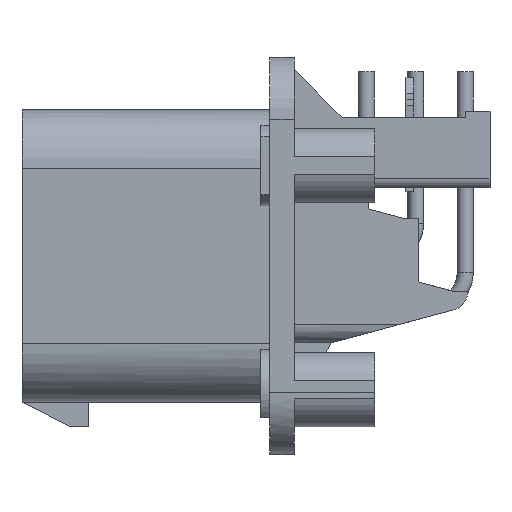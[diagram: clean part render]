
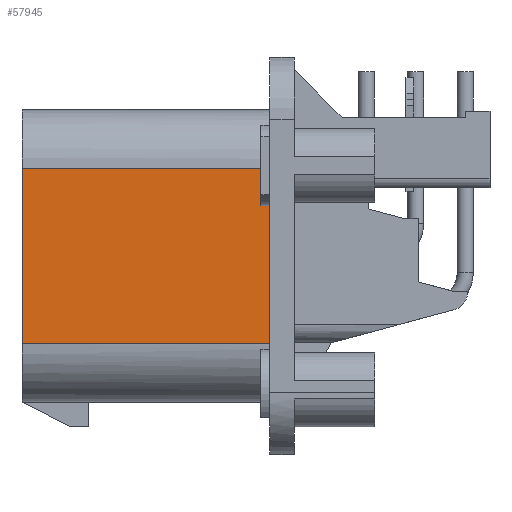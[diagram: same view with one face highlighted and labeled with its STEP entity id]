
A CAD part, left-side view. The second image highlights one B-rep face of the part: STEP entity #57945.
In plain terms, the highlighted planar face has unit normal (-1, 0, 0).
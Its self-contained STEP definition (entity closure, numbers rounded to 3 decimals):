
#7263=DIRECTION('',(0.,0.,1.));
#7264=VECTOR('',#7263,11.15);
#7265=CARTESIAN_POINT('',(-29.7,2.,-7.1));
#7266=LINE('',#7265,#7264);
#27740=DIRECTION('',(0.,1.,0.));
#27741=VECTOR('',#27740,19.275);
#27742=CARTESIAN_POINT('',(-29.7,2.725,7.1));
#27743=LINE('',#27742,#27741);
#27747=DIRECTION('',(0.,0.,1.));
#27748=VECTOR('',#27747,3.05);
#27749=CARTESIAN_POINT('',(-29.7,2.725,4.05));
#27750=LINE('',#27749,#27748);
#27754=DIRECTION('',(0.,1.,0.));
#27755=VECTOR('',#27754,0.725);
#27756=CARTESIAN_POINT('',(-29.7,2.,4.05));
#27757=LINE('',#27756,#27755);
#27761=DIRECTION('',(0.,1.,0.));
#27762=VECTOR('',#27761,20.);
#27763=CARTESIAN_POINT('',(-29.7,2.,-7.1));
#27764=LINE('',#27763,#27762);
#27929=DIRECTION('',(0.,0.,1.));
#27930=VECTOR('',#27929,14.2);
#27931=CARTESIAN_POINT('',(-29.7,22.,-7.1));
#27932=LINE('',#27931,#27930);
#30969=CARTESIAN_POINT('',(-29.7,22.,7.1));
#30970=VERTEX_POINT('',#30969);
#30971=CARTESIAN_POINT('',(-29.7,22.,-7.1));
#30972=VERTEX_POINT('',#30971);
#32482=CARTESIAN_POINT('',(-29.7,2.,-7.1));
#32483=VERTEX_POINT('',#32482);
#34390=CARTESIAN_POINT('',(-29.7,2.,4.05));
#34392=VERTEX_POINT('',#34390);
#34416=CARTESIAN_POINT('',(-29.7,2.725,7.1));
#34418=VERTEX_POINT('',#34416);
#34420=CARTESIAN_POINT('',(-29.7,2.725,4.05));
#34421=VERTEX_POINT('',#34420);
#57929=CARTESIAN_POINT('',(-29.7,2.,-7.1));
#57930=DIRECTION('',(-1.,0.,0.));
#57931=DIRECTION('',(0.,0.,1.));
#57932=AXIS2_PLACEMENT_3D('',#57929,#57930,#57931);
#57933=PLANE('',#57932);
#57934=ORIENTED_EDGE('',*,*,#57625,.F.);
#57936=ORIENTED_EDGE('',*,*,#57935,.F.);
#57937=ORIENTED_EDGE('',*,*,#39174,.F.);
#57939=ORIENTED_EDGE('',*,*,#57938,.T.);
#57941=ORIENTED_EDGE('',*,*,#57940,.T.);
#57942=ORIENTED_EDGE('',*,*,#57918,.F.);
#57943=EDGE_LOOP('',(#57934,#57936,#57937,#57939,#57941,#57942));
#57944=FACE_OUTER_BOUND('',#57943,.F.);
#57945=ADVANCED_FACE('',(#57944),#57933,.T.);
#39174=EDGE_CURVE('',#32483,#34392,#7266,.T.);
#57625=EDGE_CURVE('',#34421,#34418,#27750,.T.);
#57918=EDGE_CURVE('',#34418,#30970,#27743,.T.);
#57935=EDGE_CURVE('',#34392,#34421,#27757,.T.);
#57938=EDGE_CURVE('',#32483,#30972,#27764,.T.);
#57940=EDGE_CURVE('',#30972,#30970,#27932,.T.);
